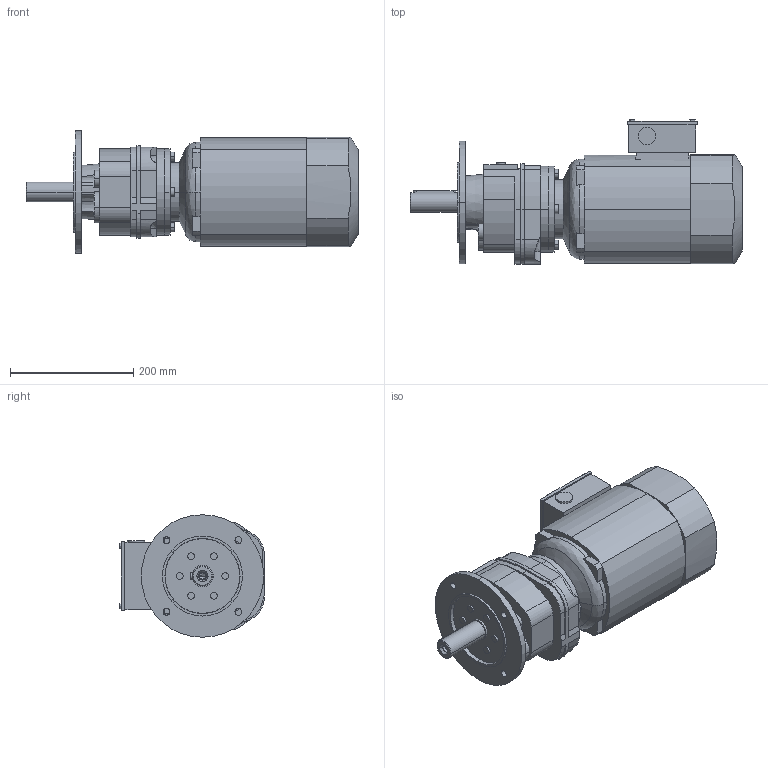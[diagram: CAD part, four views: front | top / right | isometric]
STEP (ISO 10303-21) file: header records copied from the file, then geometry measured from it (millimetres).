
FILE_DESCRIPTION(('STEP AP214'),'1');
FILE_NAME('STEP-File.stp','2018-01-01T00:00:00',(' '),('KEB'),' ','KEB-DRIVE',' ');
FILE_SCHEMA(('AUTOMOTIVE_DESIGN { 1 0 10303 214 1 1 1 1 }'));
Length unit declared in the file: millimetre
Products named in the file (9): g2b; w2_we_32x80; c2_200; cn2; dm100_kkn; kk08; PLUG_M25; ndm100; ZG23 DM90SD4§CAD13
Assembly tree (8 placements, depth 2):
  ZG23 DM90SD4§CAD13
    g2b
    w2_we_32x80
    c2_200
    cn2
    dm100_kkn
    kk08
    PLUG_M25
    ndm100
Bounding box: 539.5 x 235 x 198.95 mm (x, y, z)
Volume: 10801009 mm3; surface area: 581279.2 mm2
Topology: 8 solids, 8 shells, 454 faces, 1335 edges, 1059 vertices
Faces by surface type: plane 280, cylinder 108, cone 58, extrusion 4, torus 2, revolution 2
Entity records: 18156 total; most frequent: CARTESIAN_POINT 6309, ORIENTED_EDGE 2666, DIRECTION 1850, EDGE_CURVE 1333, VERTEX_POINT 1059, VECTOR 953, LINE 949, EDGE_LOOP 626
